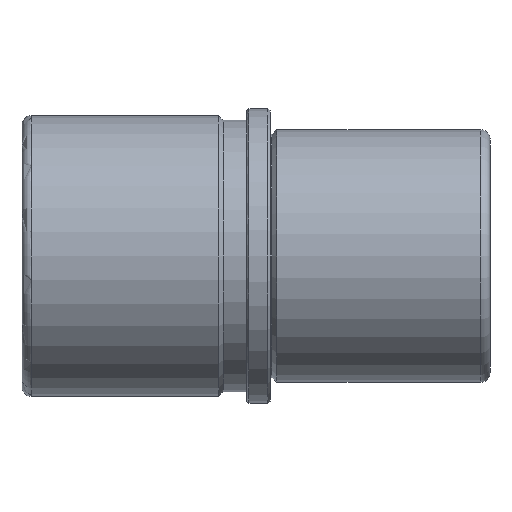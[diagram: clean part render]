
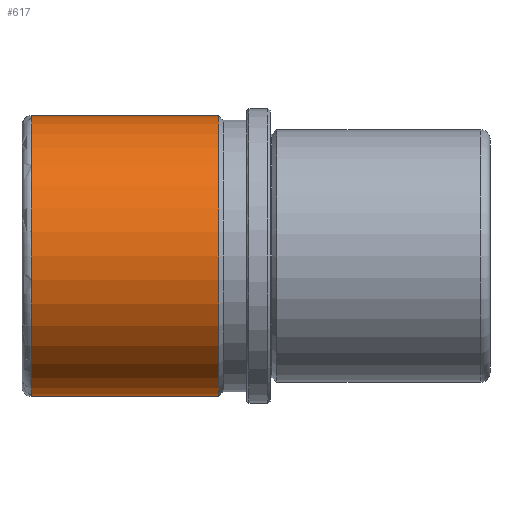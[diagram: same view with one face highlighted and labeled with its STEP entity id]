
A CAD part, front view. The second image highlights one B-rep face of the part: STEP entity #617.
In plain terms, the highlighted cylindrical face has radius 30 mm (diameter 60 mm), a partial arc.
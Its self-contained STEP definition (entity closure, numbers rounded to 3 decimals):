
#402=CARTESIAN_POINT('Line Origine',(47.,0.,30.)) ;
#406=CARTESIAN_POINT('Vertex',(-11.,0.,30.)) ;
#408=CARTESIAN_POINT('Vertex',(-51.,0.,30.)) ;
#422=CARTESIAN_POINT('Vertex',(-11.,0.,-30.)) ;
#425=CARTESIAN_POINT('Line Origine',(47.,0.,-30.)) ;
#429=CARTESIAN_POINT('Vertex',(-51.,0.,-30.)) ;
#580=CARTESIAN_POINT('Axis2P3D Location',(47.,0.,0.)) ;
#585=CARTESIAN_POINT('Axis2P3D Location',(-11.,0.,0.)) ;
#589=CARTESIAN_POINT('Vertex',(-11.,-30.,0.)) ;
#592=CARTESIAN_POINT('Axis2P3D Location',(-11.,0.,0.)) ;
#597=CARTESIAN_POINT('Axis2P3D Location',(-51.,0.,0.)) ;
#601=CARTESIAN_POINT('Vertex',(-51.,-30.,0.)) ;
#604=CARTESIAN_POINT('Axis2P3D Location',(-51.,0.,0.)) ;
#403=DIRECTION('Vector Direction',(-1.,0.,0.)) ;
#426=DIRECTION('Vector Direction',(-1.,0.,0.)) ;
#581=DIRECTION('Axis2P3D Direction',(-1.,-0.,-0.)) ;
#582=DIRECTION('Axis2P3D XDirection',(0.,0.,-1.)) ;
#586=DIRECTION('Axis2P3D Direction',(-1.,-0.,-0.)) ;
#593=DIRECTION('Axis2P3D Direction',(-1.,-0.,-0.)) ;
#598=DIRECTION('Axis2P3D Direction',(-1.,-0.,-0.)) ;
#605=DIRECTION('Axis2P3D Direction',(-1.,-0.,-0.)) ;
#583=AXIS2_PLACEMENT_3D('Cylinder Axis2P3D',#580,#581,#582) ;
#587=AXIS2_PLACEMENT_3D('Circle Axis2P3D',#585,#586,$) ;
#594=AXIS2_PLACEMENT_3D('Circle Axis2P3D',#592,#593,$) ;
#599=AXIS2_PLACEMENT_3D('Circle Axis2P3D',#597,#598,$) ;
#606=AXIS2_PLACEMENT_3D('Circle Axis2P3D',#604,#605,$) ;
#610=ORIENTED_EDGE('',*,*,#431,.T.) ;
#611=ORIENTED_EDGE('',*,*,#591,.F.) ;
#612=ORIENTED_EDGE('',*,*,#596,.F.) ;
#613=ORIENTED_EDGE('',*,*,#410,.T.) ;
#614=ORIENTED_EDGE('',*,*,#603,.T.) ;
#615=ORIENTED_EDGE('',*,*,#608,.T.) ;
#404=VECTOR('Line Direction',#403,1.) ;
#427=VECTOR('Line Direction',#426,1.) ;
#617=ADVANCED_FACE('FAMO-SF1-D42 x 100',(#616),#584,.T.) ;
#588=CIRCLE('generated circle',#587,30.) ;
#595=CIRCLE('generated circle',#594,30.) ;
#600=CIRCLE('generated circle',#599,30.) ;
#607=CIRCLE('generated circle',#606,30.) ;
#584=CYLINDRICAL_SURFACE('generated cylinder',#583,30.) ;
#410=EDGE_CURVE('',#407,#409,#405,.T.) ;
#431=EDGE_CURVE('',#430,#423,#428,.F.) ;
#591=EDGE_CURVE('',#590,#423,#588,.F.) ;
#596=EDGE_CURVE('',#407,#590,#595,.F.) ;
#603=EDGE_CURVE('',#409,#602,#600,.F.) ;
#608=EDGE_CURVE('',#602,#430,#607,.F.) ;
#609=EDGE_LOOP('',(#610,#611,#612,#613,#614,#615)) ;
#616=FACE_OUTER_BOUND('',#609,.T.) ;
#405=LINE('Line',#402,#404) ;
#428=LINE('Line',#425,#427) ;
#407=VERTEX_POINT('',#406) ;
#409=VERTEX_POINT('',#408) ;
#423=VERTEX_POINT('',#422) ;
#430=VERTEX_POINT('',#429) ;
#590=VERTEX_POINT('',#589) ;
#602=VERTEX_POINT('',#601) ;
